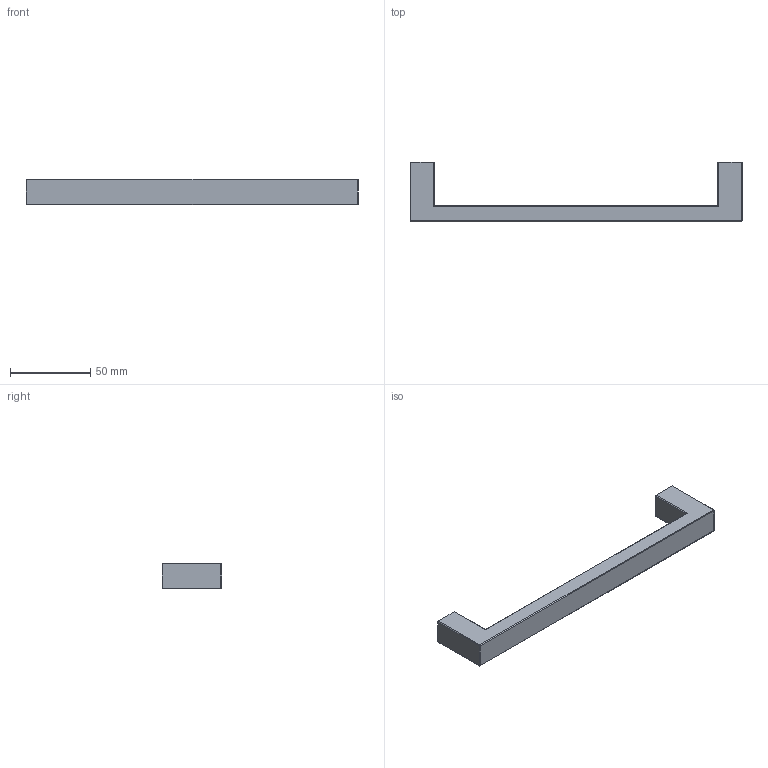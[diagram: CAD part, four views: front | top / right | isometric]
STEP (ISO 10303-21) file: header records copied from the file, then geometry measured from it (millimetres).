
FILE_DESCRIPTION( ( '' ), '1' );
FILE_NAME( 'C:/Documents and Settings/Sachin/Desktop/Sheet 10_1/stp/9069806.stp', '2013-10-22T06:53:00', ( '' ), ( '' ), ' ', ' ', ' ' );
FILE_SCHEMA( ( 'CONFIG_CONTROL_DESIGN' ) );
Length unit declared in the file: millimetre
Products named in the file (1): 1
Bounding box: 207 x 37 x 16 mm (x, y, z)
Volume: 45824 mm3; surface area: 14400 mm2
Topology: 1 solids, 1 shells, 36 faces, 88 edges, 56 vertices
Faces by surface type: cylinder 20, plane 16
Entity records: 1108 total; most frequent: DIRECTION 198, CARTESIAN_POINT 181, ORIENTED_EDGE 176, EDGE_CURVE 88, AXIS2_PLACEMENT_3D 73, VERTEX_POINT 56, LINE 52, VECTOR 52
